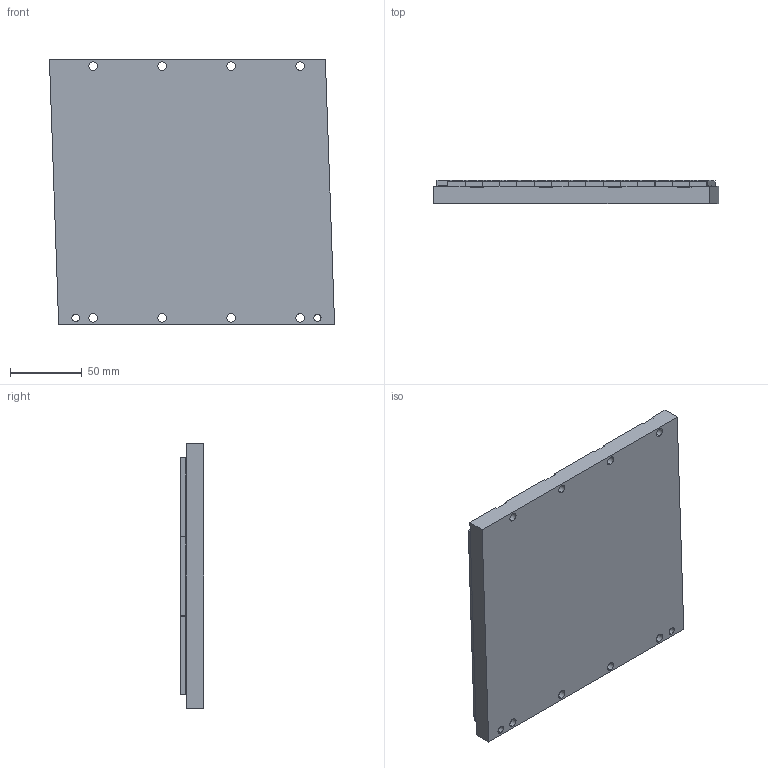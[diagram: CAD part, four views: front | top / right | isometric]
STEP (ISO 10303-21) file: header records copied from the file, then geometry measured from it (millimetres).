
FILE_DESCRIPTION (( 'STEP AP203' ), '1' );
FILE_NAME ('MP177-192.STEP', '2022-06-14T00:45:07', ( '' ), ( '' ), 'SwSTEP 2.0', 'SolidWorks 2021', '' );
FILE_SCHEMA (( 'CONFIG_CONTROL_DESIGN' ));
Length unit declared in the file: millimetre
Products named in the file (1): MP177-192
Bounding box: 198.28 x 16 x 184 mm (x, y, z)
Volume: 534145 mm3; surface area: 88638.7 mm2
Topology: 1 solids, 1 shells, 907 faces, 2226 edges, 1114 vertices
Faces by surface type: cylinder 452, plane 237, sphere 218
Entity records: 24653 total; most frequent: DIRECTION 4726, CARTESIAN_POINT 4112, ORIENTED_EDGE 4036, EDGE_CURVE 2018, AXIS2_PLACEMENT_3D 1824, VERTEX_POINT 1114, LINE 1078, VECTOR 1078
